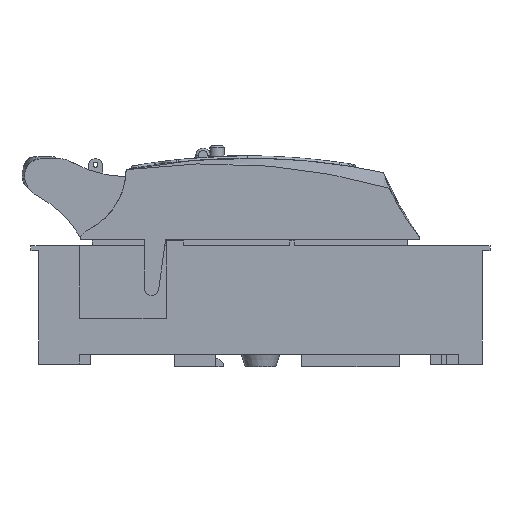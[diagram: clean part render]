
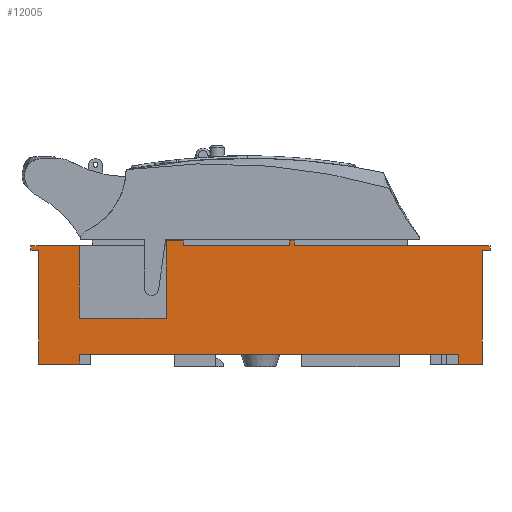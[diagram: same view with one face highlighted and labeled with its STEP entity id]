
A CAD part, front view. The second image highlights one B-rep face of the part: STEP entity #12005.
In plain terms, the highlighted planar face has unit normal (0, -1, 0).
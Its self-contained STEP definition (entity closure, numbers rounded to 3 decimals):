
#12005=ADVANCED_FACE('',(#14515),#13399,.F.);
#13399=PLANE('',#36182);
#14515=FACE_OUTER_BOUND('',#15860,.T.);
#15860=EDGE_LOOP('',(#17339,#17340,#17341,#17342,#17343,#17344,#17345,#17346,
#17347,#17348,#17349,#17350,#17351,#17352,#17353,#17354,#17355,#17356,#17357,
#17358,#17359,#17360));
#17339=ORIENTED_EDGE('',*,*,#27793,.T.);
#17340=ORIENTED_EDGE('',*,*,#27794,.F.);
#17341=ORIENTED_EDGE('',*,*,#27795,.F.);
#17342=ORIENTED_EDGE('',*,*,#27796,.F.);
#17343=ORIENTED_EDGE('',*,*,#27797,.F.);
#17344=ORIENTED_EDGE('',*,*,#27798,.F.);
#17345=ORIENTED_EDGE('',*,*,#27799,.F.);
#17346=ORIENTED_EDGE('',*,*,#27800,.F.);
#17347=ORIENTED_EDGE('',*,*,#27801,.F.);
#17348=ORIENTED_EDGE('',*,*,#27802,.T.);
#17349=ORIENTED_EDGE('',*,*,#27803,.F.);
#17350=ORIENTED_EDGE('',*,*,#27804,.F.);
#17351=ORIENTED_EDGE('',*,*,#27805,.F.);
#17352=ORIENTED_EDGE('',*,*,#27806,.F.);
#17353=ORIENTED_EDGE('',*,*,#27807,.F.);
#17354=ORIENTED_EDGE('',*,*,#27808,.F.);
#17355=ORIENTED_EDGE('',*,*,#27809,.F.);
#17356=ORIENTED_EDGE('',*,*,#27810,.F.);
#17357=ORIENTED_EDGE('',*,*,#27811,.F.);
#17358=ORIENTED_EDGE('',*,*,#27812,.F.);
#17359=ORIENTED_EDGE('',*,*,#27813,.F.);
#17360=ORIENTED_EDGE('',*,*,#27814,.F.);
#25189=VERTEX_POINT('',#44795);
#25190=VERTEX_POINT('',#44796);
#25191=VERTEX_POINT('',#44798);
#25192=VERTEX_POINT('',#44800);
#25193=VERTEX_POINT('',#44802);
#25194=VERTEX_POINT('',#44804);
#25195=VERTEX_POINT('',#44806);
#25196=VERTEX_POINT('',#44808);
#25197=VERTEX_POINT('',#44810);
#25198=VERTEX_POINT('',#44812);
#25199=VERTEX_POINT('',#44814);
#25200=VERTEX_POINT('',#44816);
#25201=VERTEX_POINT('',#44818);
#25202=VERTEX_POINT('',#44820);
#25203=VERTEX_POINT('',#44822);
#25204=VERTEX_POINT('',#44824);
#25205=VERTEX_POINT('',#44826);
#25206=VERTEX_POINT('',#44828);
#25207=VERTEX_POINT('',#44830);
#25208=VERTEX_POINT('',#44832);
#25209=VERTEX_POINT('',#44834);
#25210=VERTEX_POINT('',#44836);
#27793=EDGE_CURVE('',#25189,#25190,#31718,.T.);
#27794=EDGE_CURVE('',#25191,#25190,#31719,.T.);
#27795=EDGE_CURVE('',#25192,#25191,#31720,.T.);
#27796=EDGE_CURVE('',#25193,#25192,#31721,.T.);
#27797=EDGE_CURVE('',#25194,#25193,#31722,.T.);
#27798=EDGE_CURVE('',#25195,#25194,#31723,.T.);
#27799=EDGE_CURVE('',#25196,#25195,#31724,.T.);
#27800=EDGE_CURVE('',#25197,#25196,#31725,.T.);
#27801=EDGE_CURVE('',#25198,#25197,#31726,.T.);
#27802=EDGE_CURVE('',#25198,#25199,#31727,.T.);
#27803=EDGE_CURVE('',#25200,#25199,#31728,.T.);
#27804=EDGE_CURVE('',#25201,#25200,#31729,.T.);
#27805=EDGE_CURVE('',#25202,#25201,#31730,.T.);
#27806=EDGE_CURVE('',#25203,#25202,#31731,.T.);
#27807=EDGE_CURVE('',#25204,#25203,#31732,.T.);
#27808=EDGE_CURVE('',#25205,#25204,#31733,.T.);
#27809=EDGE_CURVE('',#25206,#25205,#31734,.T.);
#27810=EDGE_CURVE('',#25207,#25206,#31735,.T.);
#27811=EDGE_CURVE('',#25208,#25207,#31736,.T.);
#27812=EDGE_CURVE('',#25209,#25208,#31737,.T.);
#27813=EDGE_CURVE('',#25210,#25209,#31738,.T.);
#27814=EDGE_CURVE('',#25189,#25210,#31739,.T.);
#31718=LINE('',#44794,#33903);
#31719=LINE('',#44797,#33904);
#31720=LINE('',#44799,#33905);
#31721=LINE('',#44801,#33906);
#31722=LINE('',#44803,#33907);
#31723=LINE('',#44805,#33908);
#31724=LINE('',#44807,#33909);
#31725=LINE('',#44809,#33910);
#31726=LINE('',#44811,#33911);
#31727=LINE('',#44813,#33912);
#31728=LINE('',#44815,#33913);
#31729=LINE('',#44817,#33914);
#31730=LINE('',#44819,#33915);
#31731=LINE('',#44821,#33916);
#31732=LINE('',#44823,#33917);
#31733=LINE('',#44825,#33918);
#31734=LINE('',#44827,#33919);
#31735=LINE('',#44829,#33920);
#31736=LINE('',#44831,#33921);
#31737=LINE('',#44833,#33922);
#31738=LINE('',#44835,#33923);
#31739=LINE('',#44837,#33924);
#33903=VECTOR('',#38297,1.);
#33904=VECTOR('',#38298,1.);
#33905=VECTOR('',#38299,1.);
#33906=VECTOR('',#38300,1.);
#33907=VECTOR('',#38301,1.);
#33908=VECTOR('',#38302,1.);
#33909=VECTOR('',#38303,1.);
#33910=VECTOR('',#38304,1.);
#33911=VECTOR('',#38305,1.);
#33912=VECTOR('',#38306,1.);
#33913=VECTOR('',#38307,1.);
#33914=VECTOR('',#38308,1.);
#33915=VECTOR('',#38309,1.);
#33916=VECTOR('',#38310,1.);
#33917=VECTOR('',#38311,1.);
#33918=VECTOR('',#38312,1.);
#33919=VECTOR('',#38313,1.);
#33920=VECTOR('',#38314,1.);
#33921=VECTOR('',#38315,1.);
#33922=VECTOR('',#38316,1.);
#33923=VECTOR('',#38317,1.);
#33924=VECTOR('',#38318,1.);
#36182=AXIS2_PLACEMENT_3D('',#44838,#38319,#38320);
#38297=DIRECTION('',(1.,0.,0.));
#38298=DIRECTION('',(0.,0.,1.));
#38299=DIRECTION('',(-1.,0.,0.));
#38300=DIRECTION('',(-0.005,0.,-1.));
#38301=DIRECTION('',(-1.,0.,0.));
#38302=DIRECTION('',(0.,0.,-1.));
#38303=DIRECTION('',(1.,0.,0.));
#38304=DIRECTION('',(0.,0.,-1.));
#38305=DIRECTION('',(1.,0.,0.));
#38306=DIRECTION('',(0.,0.,-1.));
#38307=DIRECTION('',(1.,0.,0.));
#38308=DIRECTION('',(0.,0.,-1.));
#38309=DIRECTION('',(1.,0.,0.));
#38310=DIRECTION('',(0.,0.,1.));
#38311=DIRECTION('',(1.,0.,0.));
#38312=DIRECTION('',(0.,0.,-1.));
#38313=DIRECTION('',(1.,0.,0.));
#38314=DIRECTION('',(0.,0.,1.));
#38315=DIRECTION('',(-1.,0.,0.));
#38316=DIRECTION('',(-0.005,0.,1.));
#38317=DIRECTION('',(-1.,0.,0.));
#38318=DIRECTION('',(0.,0.,-1.));
#38319=DIRECTION('',(0.,1.,0.));
#38320=DIRECTION('',(0.,0.,1.));
#44794=CARTESIAN_POINT('',(-75.,-44.5,-25.979));
#44795=CARTESIAN_POINT('',(-75.,-44.5,-25.979));
#44796=CARTESIAN_POINT('',(82.,-44.5,-25.979));
#44797=CARTESIAN_POINT('',(82.,-44.5,-25.979));
#44798=CARTESIAN_POINT('',(82.,-44.5,-29.979));
#44799=CARTESIAN_POINT('',(82.,-44.5,-29.979));
#44800=CARTESIAN_POINT('',(91.754,-44.5,-29.979));
#44801=CARTESIAN_POINT('',(92.006,-44.5,18.147));
#44802=CARTESIAN_POINT('',(92.,-44.5,17.021));
#44803=CARTESIAN_POINT('',(91.5,-44.5,17.021));
#44804=CARTESIAN_POINT('',(95.,-44.5,17.021));
#44805=CARTESIAN_POINT('',(95.,-44.5,19.021));
#44806=CARTESIAN_POINT('',(95.,-44.5,19.021));
#44807=CARTESIAN_POINT('',(-75.,-44.5,19.021));
#44808=CARTESIAN_POINT('',(14.,-44.5,19.021));
#44809=CARTESIAN_POINT('',(14.,-44.5,21.021));
#44810=CARTESIAN_POINT('',(14.,-44.5,21.021));
#44811=CARTESIAN_POINT('',(14.,-44.5,21.021));
#44812=CARTESIAN_POINT('',(12.,-44.5,21.021));
#44813=CARTESIAN_POINT('',(12.,-44.5,21.021));
#44814=CARTESIAN_POINT('',(12.,-44.5,19.021));
#44815=CARTESIAN_POINT('',(-75.,-44.5,19.021));
#44816=CARTESIAN_POINT('',(-32.,-44.5,19.021));
#44817=CARTESIAN_POINT('',(-32.,-44.5,21.021));
#44818=CARTESIAN_POINT('',(-32.,-44.5,21.021));
#44819=CARTESIAN_POINT('',(-39.,-44.5,21.021));
#44820=CARTESIAN_POINT('',(-39.,-44.5,21.021));
#44821=CARTESIAN_POINT('',(-39.,-44.5,19.021));
#44822=CARTESIAN_POINT('',(-39.,-44.5,-10.979));
#44823=CARTESIAN_POINT('',(-75.,-44.5,-10.979));
#44824=CARTESIAN_POINT('',(-75.,-44.5,-10.979));
#44825=CARTESIAN_POINT('',(-75.,-44.5,-25.979));
#44826=CARTESIAN_POINT('',(-75.,-44.5,19.021));
#44827=CARTESIAN_POINT('',(-75.,-44.5,19.021));
#44828=CARTESIAN_POINT('',(-95.,-44.5,19.021));
#44829=CARTESIAN_POINT('',(-95.,-44.5,19.021));
#44830=CARTESIAN_POINT('',(-95.,-44.5,17.021));
#44831=CARTESIAN_POINT('',(-94.5,-44.5,17.021));
#44832=CARTESIAN_POINT('',(-92.,-44.5,17.021));
#44833=CARTESIAN_POINT('',(-92.01,-44.5,18.932));
#44834=CARTESIAN_POINT('',(-91.754,-44.5,-29.979));
#44835=CARTESIAN_POINT('',(-91.5,-44.5,-29.979));
#44836=CARTESIAN_POINT('',(-75.,-44.5,-29.979));
#44837=CARTESIAN_POINT('',(-75.,-44.5,-25.979));
#44838=CARTESIAN_POINT('',(-75.,-44.5,19.021));
